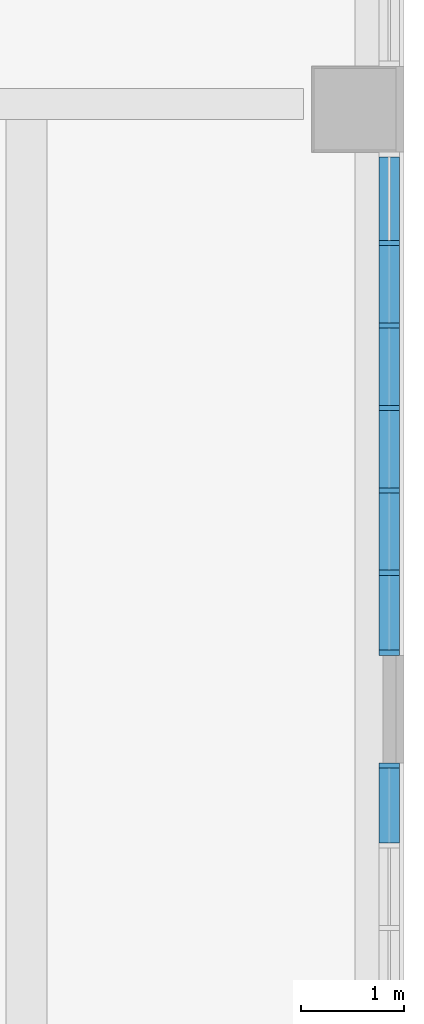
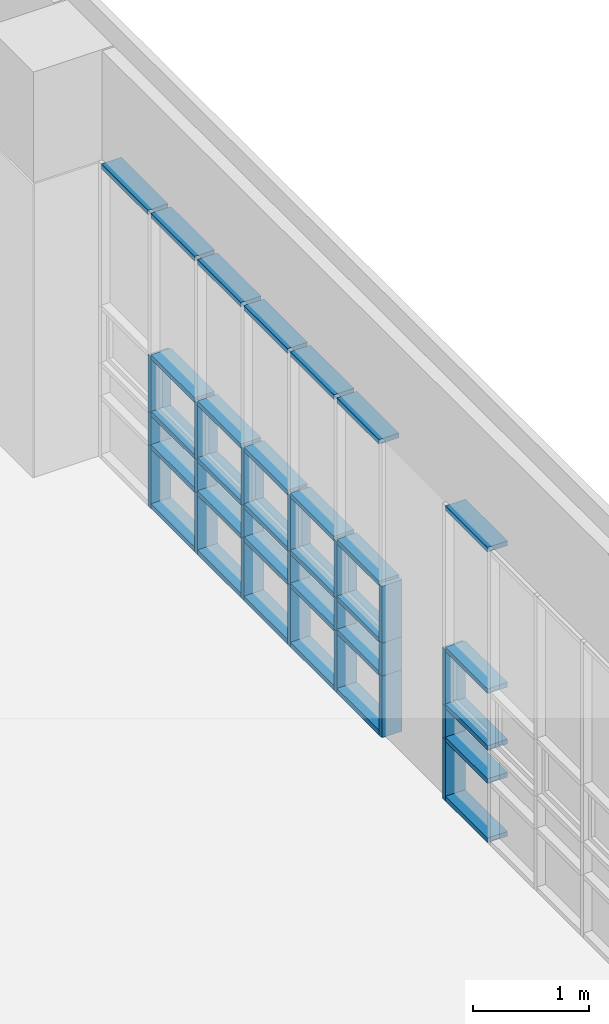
# One storey, part 24 of 74: 52 members, 2 elements without a shape of their own.
"""IFC2X3 building model written with IfcOpenShell, lengths in millimetres."""

from ifc_helpers import new_model, entity, si_unit, converted_unit, derived_unit, direction, frame, origin, origin_2d_with_axis, place, context, subcontext, project, spatial, rectangle, extrude, source, transform, mapped, material, type_object, type_shapes, element, aggregate, save


model = new_model("IFC2X3")

# Units and contexts
model_context = context("Model", 3, precision=0.01, world=origin(), true_north=direction((6.123031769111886e-17, 1.0)))
body_context = subcontext(model_context, "Body", "Model", "MODEL_VIEW")
ifc_project = project(units=[si_unit("LENGTHUNIT", "METRE", prefix="MILLI"), si_unit("AREAUNIT", "SQUARE_METRE"), si_unit("VOLUMEUNIT", "CUBIC_METRE"), converted_unit("PLANEANGLEUNIT", "DEGREE", entity("IfcRatioMeasure", 0.017453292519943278), si_unit("PLANEANGLEUNIT", "RADIAN"), dimensions=[0, 0, 0, 0, 0, 0, 0]), si_unit("MASSUNIT", "GRAM", prefix="KILO"), derived_unit("MASSDENSITYUNIT", [(si_unit("MASSUNIT", "GRAM", prefix="KILO"), 1), (si_unit("LENGTHUNIT", "METRE"), -3)]), derived_unit("MOMENTOFINERTIAUNIT", [(si_unit("LENGTHUNIT", "METRE"), 4)]), si_unit("TIMEUNIT", "SECOND"), si_unit("FREQUENCYUNIT", "HERTZ"), si_unit("THERMODYNAMICTEMPERATUREUNIT", "DEGREE_CELSIUS"), derived_unit("THERMALTRANSMITTANCEUNIT", [(si_unit("MASSUNIT", "GRAM", prefix="KILO"), 1), (si_unit("THERMODYNAMICTEMPERATUREUNIT", "KELVIN"), -1), (si_unit("TIMEUNIT", "SECOND"), -3)]), derived_unit("VOLUMETRICFLOWRATEUNIT", [(si_unit("LENGTHUNIT", "METRE"), 3), (si_unit("TIMEUNIT", "SECOND"), -1)]), derived_unit("MASSFLOWRATEUNIT", [(si_unit("MASSUNIT", "GRAM", prefix="KILO"), 1), (si_unit("TIMEUNIT", "SECOND"), -1)]), derived_unit("ROTATIONALFREQUENCYUNIT", [(si_unit("TIMEUNIT", "SECOND"), -1)]), si_unit("ELECTRICCURRENTUNIT", "AMPERE"), si_unit("ELECTRICVOLTAGEUNIT", "VOLT"), si_unit("POWERUNIT", "WATT"), si_unit("FORCEUNIT", "NEWTON", prefix="KILO"), si_unit("ILLUMINANCEUNIT", "LUX"), si_unit("LUMINOUSFLUXUNIT", "LUMEN"), si_unit("LUMINOUSINTENSITYUNIT", "CANDELA"), derived_unit("USERDEFINED", [(si_unit("MASSUNIT", "GRAM", prefix="KILO"), -1), (si_unit("LENGTHUNIT", "METRE"), -2), (si_unit("TIMEUNIT", "SECOND"), 3), (si_unit("LUMINOUSFLUXUNIT", "LUMEN"), 1)]), derived_unit("SOUNDPOWERUNIT", [(si_unit("MASSUNIT", "GRAM", prefix="KILO"), 1), (si_unit("LENGTHUNIT", "METRE"), 2), (si_unit("TIMEUNIT", "SECOND"), -3)]), derived_unit("SOUNDPRESSUREUNIT", [(si_unit("MASSUNIT", "GRAM", prefix="KILO"), 1), (si_unit("LENGTHUNIT", "METRE"), -1), (si_unit("TIMEUNIT", "SECOND"), -2)]), derived_unit("LINEARVELOCITYUNIT", [(si_unit("LENGTHUNIT", "METRE"), 1), (si_unit("TIMEUNIT", "SECOND"), -1)]), si_unit("PRESSUREUNIT", "PASCAL"), derived_unit("USERDEFINED", [(si_unit("LENGTHUNIT", "METRE"), -2), (si_unit("MASSUNIT", "GRAM", prefix="KILO"), 1), (si_unit("TIMEUNIT", "SECOND"), -2)]), derived_unit("LINEARFORCEUNIT", [(si_unit("MASSUNIT", "GRAM", prefix="KILO"), 1), (si_unit("LENGTHUNIT", "METRE"), 1), (si_unit("TIMEUNIT", "SECOND"), -2), (si_unit("LENGTHUNIT", "METRE"), -1)]), derived_unit("PLANARFORCEUNIT", [(si_unit("MASSUNIT", "GRAM", prefix="KILO"), 1), (si_unit("LENGTHUNIT", "METRE"), 1), (si_unit("TIMEUNIT", "SECOND"), -2), (si_unit("LENGTHUNIT", "METRE"), -2)])], contexts=[model_context])

# Site, building, storey
site_placement = place(None, frame((-14167.972527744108, -657.2125860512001, 0.0)))
site = spatial("IfcSite", under=ifc_project, at=site_placement, Name="Default", CompositionType="ELEMENT")
building_placement = place(site_placement, origin())
building = spatial("IfcBuilding", under=site, at=building_placement, Name="Sample Building", CompositionType="ELEMENT")
storey_placement = place(building_placement, frame((0.0, 0.0, 4800.0)))
storey = spatial("IfcBuildingStorey", under=building, at=storey_placement, Name="지상 2층", CompositionType="ELEMENT", Elevation=4800.000000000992)

# Curtain wall, member
curtain_wall_type = type_object("IfcCurtainWallType", Name="커튼월:CW112-스테인리스 스틸 커튼월", PredefinedType="NOTDEFINED")
curtain_wall_1_placement = place(storey_placement, frame((0.0, 0.0, -4800.0)))
curtain_wall_1 = element("IfcCurtainWall", 1, at=curtain_wall_1_placement, inside=storey, type_object=curtain_wall_type, Name="커튼월:CW112-스테인리스 스틸 커튼월", ObjectType="커튼월:CW112-스테인리스 스틸 커튼월")
ifc_material = material(Name="<Unnamed>")
member_type_1 = type_object("IfcMemberType", Name="직사각형 멀리언:CW200-직사각형 멀리언 50x200mm", PredefinedType="MULLION", material=ifc_material)
shared_shape_1 = source(origin(), body_context, "Body", "SweptSolid", [
    extrude(rectangle(XDim=200.0, YDim=50.0, at=origin_2d_with_axis()), frame((-25.0, 0.0, -650.0), z_axis=(0.0, 0.0, 1.0), x_axis=(0.0, -1.0, 0.0)), (0.0, 0.0, 1.0), 650.0000000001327),
])
type_shapes(member_type_1, [shared_shape_1])
member_1_placement = place(curtain_wall_1_placement, frame((51405.463828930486, 6282.212586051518, 4880.0), z_axis=(0.0, 0.0, -1.0), x_axis=(0.0, 1.0, 0.0)))
member_1 = element("IfcMember", 2, at=member_1_placement, type_object=member_type_1, material=ifc_material, Name="직사각형 멀리언:CW200-직사각형 멀리언 50x200mm", ObjectType="직사각형 멀리언:CW200-직사각형 멀리언 50x200mm", context=body_context, shape_type="MappedRepresentation", body=[
    mapped(shared_shape_1, transform((0.0, 0.0, 0.0), scale=1.0)),
])

# Curtain wall, members
curtain_wall_2_placement = place(storey_placement, frame((0.0, 0.0, -4800.0)))
curtain_wall_2 = element("IfcCurtainWall", 3, at=curtain_wall_2_placement, inside=storey, type_object=curtain_wall_type, Name="커튼월:CW112-스테인리스 스틸 커튼월", ObjectType="커튼월:CW112-스테인리스 스틸 커튼월")
member_type_2 = type_object("IfcMemberType", Name="직사각형 멀리언:CW200-직사각형 멀리언 50x200mm", PredefinedType="MULLION", material=ifc_material)
shared_shape_2 = source(origin(), body_context, "Body", "SweptSolid", [
    extrude(rectangle(XDim=200.0, YDim=50.0, at=origin_2d_with_axis()), frame((0.0, 0.0, -650.0), z_axis=(0.0, 0.0, 1.0), x_axis=(0.0, -1.0, 0.0)), (0.0, 0.0, 1.0), 650.0000000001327),
])
type_shapes(member_type_2, [shared_shape_2])
member_2_placement = place(curtain_wall_2_placement, frame((51405.46382893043, 8136.37925271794, 4880.0), z_axis=(0.0, 0.0, -1.0), x_axis=(0.0, 1.0, 0.0)))
member_2 = element("IfcMember", 4, at=member_2_placement, type_object=member_type_2, material=ifc_material, Name="직사각형 멀리언:CW200-직사각형 멀리언 50x200mm", ObjectType="직사각형 멀리언:CW200-직사각형 멀리언 50x200mm", context=body_context, shape_type="MappedRepresentation", body=[
    mapped(shared_shape_2, transform((0.0, 0.0, 0.0), scale=1.0)),
])
member_3_placement = place(curtain_wall_2_placement, frame((51405.46382893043, 8940.545919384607, 4880.0), z_axis=(0.0, 0.0, -1.0), x_axis=(0.0, 1.0, 0.0)))
member_3 = element("IfcMember", 5, at=member_3_placement, type_object=member_type_2, material=ifc_material, Name="직사각형 멀리언:CW200-직사각형 멀리언 50x200mm", ObjectType="직사각형 멀리언:CW200-직사각형 멀리언 50x200mm", context=body_context, shape_type="MappedRepresentation", body=[
    mapped(shared_shape_2, transform((0.0, 0.0, 0.0), scale=1.0)),
])
member_4_placement = place(curtain_wall_2_placement, frame((51405.463828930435, 9744.712586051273, 4880.0), z_axis=(0.0, 0.0, -1.0), x_axis=(0.0, 1.0, 0.0)))
member_4 = element("IfcMember", 6, at=member_4_placement, type_object=member_type_2, material=ifc_material, Name="직사각형 멀리언:CW200-직사각형 멀리언 50x200mm", ObjectType="직사각형 멀리언:CW200-직사각형 멀리언 50x200mm", context=body_context, shape_type="MappedRepresentation", body=[
    mapped(shared_shape_2, transform((0.0, 0.0, 0.0), scale=1.0)),
])
member_5_placement = place(curtain_wall_2_placement, frame((51405.463828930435, 10548.87925271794, 4880.0), z_axis=(0.0, 0.0, -1.0), x_axis=(0.0, 1.0, 0.0)))
member_5 = element("IfcMember", 7, at=member_5_placement, type_object=member_type_2, material=ifc_material, Name="직사각형 멀리언:CW200-직사각형 멀리언 50x200mm", ObjectType="직사각형 멀리언:CW200-직사각형 멀리언 50x200mm", context=body_context, shape_type="MappedRepresentation", body=[
    mapped(shared_shape_2, transform((0.0, 0.0, 0.0), scale=1.0)),
])
member_6_placement = place(curtain_wall_2_placement, frame((51405.463828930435, 11353.045919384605, 4880.0), z_axis=(0.0, 0.0, -1.0), x_axis=(0.0, 1.0, 0.0)))
member_6 = element("IfcMember", 8, at=member_6_placement, type_object=member_type_2, material=ifc_material, Name="직사각형 멀리언:CW200-직사각형 멀리언 50x200mm", ObjectType="직사각형 멀리언:CW200-직사각형 멀리언 50x200mm", context=body_context, shape_type="MappedRepresentation", body=[
    mapped(shared_shape_2, transform((0.0, 0.0, 0.0), scale=1.0)),
])
member_type_3 = type_object("IfcMemberType", Name="직사각형 멀리언:CW200-직사각형 멀리언 50x200mm", PredefinedType="MULLION", material=ifc_material)
shared_shape_3 = source(origin(), body_context, "Body", "SweptSolid", [
    extrude(rectangle(XDim=200.0, YDim=50.0, at=origin_2d_with_axis()), frame((-25.0, 0.0, -600.0), z_axis=(0.0, 0.0, 1.0), x_axis=(0.0, -1.0, 0.0)), (0.0, 0.0, 1.0), 600.0),
])
type_shapes(member_type_3, [shared_shape_3])
member_7_placement = place(curtain_wall_2_placement, frame((51405.46382893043, 7332.212586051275, 6480.0), z_axis=(0.0, 0.0, 1.0), x_axis=(0.0, -1.0, 0.0)))
member_7 = element("IfcMember", 9, at=member_7_placement, type_object=member_type_3, material=ifc_material, Name="직사각형 멀리언:CW200-직사각형 멀리언 50x200mm", ObjectType="직사각형 멀리언:CW200-직사각형 멀리언 50x200mm", context=body_context, shape_type="MappedRepresentation", body=[
    mapped(shared_shape_3, transform((0.0, 0.0, 0.0), scale=1.0)),
])

# Member
member_type_4 = type_object("IfcMemberType", Name="직사각형 멀리언:CW200-직사각형 멀리언 50x200mm", PredefinedType="MULLION", material=ifc_material)
shared_shape_4 = source(origin(), body_context, "Body", "SweptSolid", [
    extrude(rectangle(XDim=200.0, YDim=50.0, at=origin_2d_with_axis()), frame((-25.0, 0.0, -600.0), z_axis=(0.0, 0.0, 1.0), x_axis=(0.0, -1.0, 0.0)), (0.0, 0.0, 1.0), 600.0),
])
type_shapes(member_type_4, [shared_shape_4])
member_8_placement = place(curtain_wall_1_placement, frame((51405.463828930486, 6282.212586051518, 5880.0), z_axis=(0.0, 0.0, -1.0), x_axis=(0.0, 1.0, 0.0)))
member_8 = element("IfcMember", 10, at=member_8_placement, type_object=member_type_4, material=ifc_material, Name="직사각형 멀리언:CW200-직사각형 멀리언 50x200mm", ObjectType="직사각형 멀리언:CW200-직사각형 멀리언 50x200mm", context=body_context, shape_type="MappedRepresentation", body=[
    mapped(shared_shape_4, transform((0.0, 0.0, 0.0), scale=1.0)),
])

member_type_5 = type_object("IfcMemberType", Name="직사각형 멀리언:CW200-직사각형 멀리언 50x200mm", PredefinedType="MULLION", material=ifc_material)
shared_shape_5 = source(origin(), body_context, "Body", "SweptSolid", [
    extrude(rectangle(XDim=200.0, YDim=50.0, at=origin_2d_with_axis()), frame((-25.0, 0.0, -350.0), z_axis=(0.0, 0.0, 1.0), x_axis=(0.0, -1.0, 0.0)), (0.0, 0.0, 1.0), 349.9999999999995),
])
type_shapes(member_type_5, [shared_shape_5])
member_9_placement = place(curtain_wall_2_placement, frame((51405.46382893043, 7332.212586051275, 5880.0), z_axis=(0.0, 0.0, 1.0), x_axis=(0.0, -1.0, 0.0)))
member_9 = element("IfcMember", 11, at=member_9_placement, type_object=member_type_5, material=ifc_material, Name="직사각형 멀리언:CW200-직사각형 멀리언 50x200mm", ObjectType="직사각형 멀리언:CW200-직사각형 멀리언 50x200mm", context=body_context, shape_type="MappedRepresentation", body=[
    mapped(shared_shape_5, transform((0.0, 0.0, 0.0), scale=1.0)),
])

member_type_6 = type_object("IfcMemberType", Name="직사각형 멀리언:CW200-직사각형 멀리언 50x200mm", PredefinedType="MULLION", material=ifc_material)
shared_shape_6 = source(origin(), body_context, "Body", "SweptSolid", [
    extrude(rectangle(XDim=200.0, YDim=50.0, at=origin_2d_with_axis()), frame((0.0, 0.0, -600.0), z_axis=(0.0, 0.0, 1.0), x_axis=(0.0, -1.0, 0.0)), (0.0, 0.0, 1.0), 600.0),
])
type_shapes(member_type_6, [shared_shape_6])
member_10_placement = place(curtain_wall_2_placement, frame((51405.46382893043, 8136.37925271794, 5880.0), z_axis=(0.0, 0.0, -1.0), x_axis=(0.0, 1.0, 0.0)))
member_10 = element("IfcMember", 12, at=member_10_placement, type_object=member_type_6, material=ifc_material, Name="직사각형 멀리언:CW200-직사각형 멀리언 50x200mm", ObjectType="직사각형 멀리언:CW200-직사각형 멀리언 50x200mm", context=body_context, shape_type="MappedRepresentation", body=[
    mapped(shared_shape_6, transform((0.0, 0.0, 0.0), scale=1.0)),
])

member_11_placement = place(curtain_wall_2_placement, frame((51405.46382893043, 8940.545919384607, 5880.0), z_axis=(0.0, 0.0, -1.0), x_axis=(0.0, 1.0, 0.0)))
member_11 = element("IfcMember", 13, at=member_11_placement, type_object=member_type_6, material=ifc_material, Name="직사각형 멀리언:CW200-직사각형 멀리언 50x200mm", ObjectType="직사각형 멀리언:CW200-직사각형 멀리언 50x200mm", context=body_context, shape_type="MappedRepresentation", body=[
    mapped(shared_shape_6, transform((0.0, 0.0, 0.0), scale=1.0)),
])

member_12_placement = place(curtain_wall_2_placement, frame((51405.463828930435, 9744.712586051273, 5880.0), z_axis=(0.0, 0.0, -1.0), x_axis=(0.0, 1.0, 0.0)))
member_12 = element("IfcMember", 14, at=member_12_placement, type_object=member_type_6, material=ifc_material, Name="직사각형 멀리언:CW200-직사각형 멀리언 50x200mm", ObjectType="직사각형 멀리언:CW200-직사각형 멀리언 50x200mm", context=body_context, shape_type="MappedRepresentation", body=[
    mapped(shared_shape_6, transform((0.0, 0.0, 0.0), scale=1.0)),
])

member_13_placement = place(curtain_wall_2_placement, frame((51405.463828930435, 10548.87925271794, 5880.0), z_axis=(0.0, 0.0, -1.0), x_axis=(0.0, 1.0, 0.0)))
member_13 = element("IfcMember", 15, at=member_13_placement, type_object=member_type_6, material=ifc_material, Name="직사각형 멀리언:CW200-직사각형 멀리언 50x200mm", ObjectType="직사각형 멀리언:CW200-직사각형 멀리언 50x200mm", context=body_context, shape_type="MappedRepresentation", body=[
    mapped(shared_shape_6, transform((0.0, 0.0, 0.0), scale=1.0)),
])

member_14_placement = place(curtain_wall_2_placement, frame((51405.463828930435, 11353.045919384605, 5880.0), z_axis=(0.0, 0.0, -1.0), x_axis=(0.0, 1.0, 0.0)))
member_14 = element("IfcMember", 16, at=member_14_placement, type_object=member_type_6, material=ifc_material, Name="직사각형 멀리언:CW200-직사각형 멀리언 50x200mm", ObjectType="직사각형 멀리언:CW200-직사각형 멀리언 50x200mm", context=body_context, shape_type="MappedRepresentation", body=[
    mapped(shared_shape_6, transform((0.0, 0.0, 0.0), scale=1.0)),
])

member_type_7 = type_object("IfcMemberType", Name="직사각형 멀리언:CW200-직사각형 멀리언 50x200mm", PredefinedType="MULLION", material=ifc_material)
shared_shape_7 = source(origin(), body_context, "Body", "SweptSolid", [
    extrude(rectangle(XDim=200.0, YDim=50.0, at=origin_2d_with_axis()), frame((-25.0, 0.0, -350.0), z_axis=(0.0, 0.0, 1.0), x_axis=(0.0, -1.0, 0.0)), (0.0, 0.0, 1.0), 349.9999999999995),
])
type_shapes(member_type_7, [shared_shape_7])
member_15_placement = place(curtain_wall_1_placement, frame((51405.463828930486, 6282.212586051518, 5530.0), z_axis=(0.0, 0.0, -1.0), x_axis=(0.0, 1.0, 0.0)))
member_15 = element("IfcMember", 17, at=member_15_placement, type_object=member_type_7, material=ifc_material, Name="직사각형 멀리언:CW200-직사각형 멀리언 50x200mm", ObjectType="직사각형 멀리언:CW200-직사각형 멀리언 50x200mm", context=body_context, shape_type="MappedRepresentation", body=[
    mapped(shared_shape_7, transform((0.0, 0.0, 0.0), scale=1.0)),
])

member_type_8 = type_object("IfcMemberType", Name="직사각형 멀리언:CW200-직사각형 멀리언 50x200mm", PredefinedType="MULLION", material=ifc_material)
shared_shape_8 = source(origin(), body_context, "Body", "SweptSolid", [
    extrude(rectangle(XDim=200.0, YDim=50.0, at=origin_2d_with_axis()), frame((-25.0, 0.0, -650.0), z_axis=(0.0, 0.0, 1.0), x_axis=(0.0, -1.0, 0.0)), (0.0, 0.0, 1.0), 650.0000000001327),
])
type_shapes(member_type_8, [shared_shape_8])
member_16_placement = place(curtain_wall_2_placement, frame((51405.46382893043, 7332.212586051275, 5530.0), z_axis=(0.0, 0.0, 1.0), x_axis=(0.0, -1.0, 0.0)))
member_16 = element("IfcMember", 18, at=member_16_placement, type_object=member_type_8, material=ifc_material, Name="직사각형 멀리언:CW200-직사각형 멀리언 50x200mm", ObjectType="직사각형 멀리언:CW200-직사각형 멀리언 50x200mm", context=body_context, shape_type="MappedRepresentation", body=[
    mapped(shared_shape_8, transform((0.0, 0.0, 0.0), scale=1.0)),
])

member_type_9 = type_object("IfcMemberType", Name="직사각형 멀리언:CW200-직사각형 멀리언 50x200mm", PredefinedType="MULLION", material=ifc_material)
shared_shape_9 = source(origin(), body_context, "Body", "SweptSolid", [
    extrude(rectangle(XDim=200.0, YDim=50.0, at=origin_2d_with_axis()), frame((0.0, 0.0, -350.0), z_axis=(0.0, 0.0, 1.0), x_axis=(0.0, -1.0, 0.0)), (0.0, 0.0, 1.0), 349.9999999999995),
])
type_shapes(member_type_9, [shared_shape_9])
member_17_placement = place(curtain_wall_2_placement, frame((51405.46382893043, 8136.37925271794, 5530.0), z_axis=(0.0, 0.0, -1.0), x_axis=(0.0, 1.0, 0.0)))
member_17 = element("IfcMember", 19, at=member_17_placement, type_object=member_type_9, material=ifc_material, Name="직사각형 멀리언:CW200-직사각형 멀리언 50x200mm", ObjectType="직사각형 멀리언:CW200-직사각형 멀리언 50x200mm", context=body_context, shape_type="MappedRepresentation", body=[
    mapped(shared_shape_9, transform((0.0, 0.0, 0.0), scale=1.0)),
])

member_18_placement = place(curtain_wall_2_placement, frame((51405.46382893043, 8940.545919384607, 5530.0), z_axis=(0.0, 0.0, -1.0), x_axis=(0.0, 1.0, 0.0)))
member_18 = element("IfcMember", 20, at=member_18_placement, type_object=member_type_9, material=ifc_material, Name="직사각형 멀리언:CW200-직사각형 멀리언 50x200mm", ObjectType="직사각형 멀리언:CW200-직사각형 멀리언 50x200mm", context=body_context, shape_type="MappedRepresentation", body=[
    mapped(shared_shape_9, transform((0.0, 0.0, 0.0), scale=1.0)),
])

member_19_placement = place(curtain_wall_2_placement, frame((51405.463828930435, 9744.712586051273, 5530.0), z_axis=(0.0, 0.0, -1.0), x_axis=(0.0, 1.0, 0.0)))
member_19 = element("IfcMember", 21, at=member_19_placement, type_object=member_type_9, material=ifc_material, Name="직사각형 멀리언:CW200-직사각형 멀리언 50x200mm", ObjectType="직사각형 멀리언:CW200-직사각형 멀리언 50x200mm", context=body_context, shape_type="MappedRepresentation", body=[
    mapped(shared_shape_9, transform((0.0, 0.0, 0.0), scale=1.0)),
])

member_20_placement = place(curtain_wall_2_placement, frame((51405.463828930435, 10548.87925271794, 5530.0), z_axis=(0.0, 0.0, -1.0), x_axis=(0.0, 1.0, 0.0)))
member_20 = element("IfcMember", 22, at=member_20_placement, type_object=member_type_9, material=ifc_material, Name="직사각형 멀리언:CW200-직사각형 멀리언 50x200mm", ObjectType="직사각형 멀리언:CW200-직사각형 멀리언 50x200mm", context=body_context, shape_type="MappedRepresentation", body=[
    mapped(shared_shape_9, transform((0.0, 0.0, 0.0), scale=1.0)),
])

member_21_placement = place(curtain_wall_2_placement, frame((51405.463828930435, 11353.045919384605, 5530.0), z_axis=(0.0, 0.0, -1.0), x_axis=(0.0, 1.0, 0.0)))
member_21 = element("IfcMember", 23, at=member_21_placement, type_object=member_type_9, material=ifc_material, Name="직사각형 멀리언:CW200-직사각형 멀리언 50x200mm", ObjectType="직사각형 멀리언:CW200-직사각형 멀리언 50x200mm", context=body_context, shape_type="MappedRepresentation", body=[
    mapped(shared_shape_9, transform((0.0, 0.0, 0.0), scale=1.0)),
])

member_type_10 = type_object("IfcMemberType", Name="직사각형 멀리언:CW200-직사각형 멀리언 50x200mm", PredefinedType="MULLION", material=ifc_material)
shared_shape_10 = source(origin(), body_context, "Body", "SweptSolid", [
    extrude(rectangle(XDim=200.0, YDim=50.0, at=origin_2d_with_axis()), frame((-25.0, 0.0, -729.1666666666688), z_axis=(0.0, 0.0, 1.0), x_axis=(0.0, -1.0, 0.0)), (0.0, 0.0, 1.0), 729.1666666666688),
])
type_shapes(member_type_10, [shared_shape_10])
member_22_placement = place(curtain_wall_1_placement, frame((51405.463828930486, 6232.212586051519, 8000.0), z_axis=(0.0, 1.0, 0.0), x_axis=(0.0, 0.0, 1.0)))
member_22 = element("IfcMember", 24, at=member_22_placement, type_object=member_type_10, material=ifc_material, Name="직사각형 멀리언:CW200-직사각형 멀리언 50x200mm", ObjectType="직사각형 멀리언:CW200-직사각형 멀리언 50x200mm", context=body_context, shape_type="MappedRepresentation", body=[
    mapped(shared_shape_10, transform((0.0, 0.0, 0.0), scale=1.0)),
])

member_23_placement = place(curtain_wall_2_placement, frame((51405.46382893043, 8111.379252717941, 8000.0), z_axis=(0.0, 1.0, 0.0), x_axis=(0.0, 0.0, 1.0)))
member_23 = element("IfcMember", 25, at=member_23_placement, type_object=member_type_10, material=ifc_material, Name="직사각형 멀리언:CW200-직사각형 멀리언 50x200mm", ObjectType="직사각형 멀리언:CW200-직사각형 멀리언 50x200mm", context=body_context, shape_type="MappedRepresentation", body=[
    mapped(shared_shape_10, transform((0.0, 0.0, 0.0), scale=1.0)),
])

member_type_11 = type_object("IfcMemberType", Name="직사각형 멀리언:CW200-직사각형 멀리언 50x200mm", PredefinedType="MULLION", material=ifc_material)
shared_shape_11 = source(origin(), body_context, "Body", "SweptSolid", [
    extrude(rectangle(XDim=200.0, YDim=50.0, at=origin_2d_with_axis()), frame((-25.0, 0.0, -811.1669447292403), z_axis=(0.0, 0.0, 1.0), x_axis=(0.0, -1.0, 0.0)), (0.0, 0.0, 1.0), 811.1669447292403),
])
type_shapes(member_type_11, [shared_shape_11])
member_24_placement = place(curtain_wall_2_placement, frame((51405.463828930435, 12189.212729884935, 8000.0), z_axis=(0.0, 1.0, 0.0), x_axis=(0.0, 0.0, 1.0)))
member_24 = element("IfcMember", 26, at=member_24_placement, type_object=member_type_11, material=ifc_material, Name="직사각형 멀리언:CW200-직사각형 멀리언 50x200mm", ObjectType="직사각형 멀리언:CW200-직사각형 멀리언 50x200mm", context=body_context, shape_type="MappedRepresentation", body=[
    mapped(shared_shape_11, transform((0.0, 0.0, 0.0), scale=1.0)),
])

member_type_12 = type_object("IfcMemberType", Name="직사각형 멀리언:CW200-직사각형 멀리언 50x200mm", PredefinedType="MULLION", material=ifc_material)
shared_shape_12 = source(origin(), body_context, "Body", "SweptSolid", [
    extrude(rectangle(XDim=200.0, YDim=50.0, at=origin_2d_with_axis()), frame((-25.0, 0.0, -754.1666666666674), z_axis=(0.0, 0.0, 1.0), x_axis=(0.0, -1.0, 0.0)), (0.0, 0.0, 1.0), 754.1666666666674),
])
type_shapes(member_type_12, [shared_shape_12])
member_25_placement = place(curtain_wall_2_placement, frame((51405.46382893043, 8161.37925271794, 4880.0), z_axis=(0.0, -1.0, 0.0), x_axis=(0.0, 0.0, -1.0)))
member_25 = element("IfcMember", 27, at=member_25_placement, type_object=member_type_12, material=ifc_material, Name="직사각형 멀리언:CW200-직사각형 멀리언 50x200mm", ObjectType="직사각형 멀리언:CW200-직사각형 멀리언 50x200mm", context=body_context, shape_type="MappedRepresentation", body=[
    mapped(shared_shape_12, transform((0.0, 0.0, 0.0), scale=1.0)),
])

member_26_placement = place(curtain_wall_2_placement, frame((51405.46382893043, 8965.545919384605, 4880.0), z_axis=(0.0, -1.0, 0.0), x_axis=(0.0, 0.0, -1.0)))
member_26 = element("IfcMember", 28, at=member_26_placement, type_object=member_type_12, material=ifc_material, Name="직사각형 멀리언:CW200-직사각형 멀리언 50x200mm", ObjectType="직사각형 멀리언:CW200-직사각형 멀리언 50x200mm", context=body_context, shape_type="MappedRepresentation", body=[
    mapped(shared_shape_12, transform((0.0, 0.0, 0.0), scale=1.0)),
])

member_27_placement = place(curtain_wall_2_placement, frame((51405.463828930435, 9769.712586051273, 4880.0), z_axis=(0.0, -1.0, 0.0), x_axis=(0.0, 0.0, -1.0)))
member_27 = element("IfcMember", 29, at=member_27_placement, type_object=member_type_12, material=ifc_material, Name="직사각형 멀리언:CW200-직사각형 멀리언 50x200mm", ObjectType="직사각형 멀리언:CW200-직사각형 멀리언 50x200mm", context=body_context, shape_type="MappedRepresentation", body=[
    mapped(shared_shape_12, transform((0.0, 0.0, 0.0), scale=1.0)),
])

member_28_placement = place(curtain_wall_2_placement, frame((51405.463828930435, 10573.879252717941, 4880.0), z_axis=(0.0, -1.0, 0.0), x_axis=(0.0, 0.0, -1.0)))
member_28 = element("IfcMember", 30, at=member_28_placement, type_object=member_type_12, material=ifc_material, Name="직사각형 멀리언:CW200-직사각형 멀리언 50x200mm", ObjectType="직사각형 멀리언:CW200-직사각형 멀리언 50x200mm", context=body_context, shape_type="MappedRepresentation", body=[
    mapped(shared_shape_12, transform((0.0, 0.0, 0.0), scale=1.0)),
])

member_type_13 = type_object("IfcMemberType", Name="직사각형 멀리언:CW200-직사각형 멀리언 50x200mm", PredefinedType="MULLION", material=ifc_material)
shared_shape_13 = source(origin(), body_context, "Body", "SweptSolid", [
    extrude(rectangle(XDim=200.0, YDim=50.0, at=origin_2d_with_axis()), frame((0.0, 0.0, -754.1666666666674), z_axis=(0.0, 0.0, 1.0), x_axis=(0.0, -1.0, 0.0)), (0.0, 0.0, 1.0), 754.1666666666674),
])
type_shapes(member_type_13, [shared_shape_13])
member_29_placement = place(curtain_wall_2_placement, frame((51405.46382893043, 8915.545919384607, 6480.0), z_axis=(0.0, 1.0, 0.0), x_axis=(0.0, 0.0, 1.0)))
member_29 = element("IfcMember", 31, at=member_29_placement, type_object=member_type_13, material=ifc_material, Name="직사각형 멀리언:CW200-직사각형 멀리언 50x200mm", ObjectType="직사각형 멀리언:CW200-직사각형 멀리언 50x200mm", context=body_context, shape_type="MappedRepresentation", body=[
    mapped(shared_shape_13, transform((0.0, 0.0, 0.0), scale=1.0)),
])

member_30_placement = place(curtain_wall_2_placement, frame((51405.463828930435, 9719.712586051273, 6480.0), z_axis=(0.0, 1.0, 0.0), x_axis=(0.0, 0.0, 1.0)))
member_30 = element("IfcMember", 32, at=member_30_placement, type_object=member_type_13, material=ifc_material, Name="직사각형 멀리언:CW200-직사각형 멀리언 50x200mm", ObjectType="직사각형 멀리언:CW200-직사각형 멀리언 50x200mm", context=body_context, shape_type="MappedRepresentation", body=[
    mapped(shared_shape_13, transform((0.0, 0.0, 0.0), scale=1.0)),
])

member_31_placement = place(curtain_wall_2_placement, frame((51405.463828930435, 10523.87925271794, 6480.0), z_axis=(0.0, 1.0, 0.0), x_axis=(0.0, 0.0, 1.0)))
member_31 = element("IfcMember", 33, at=member_31_placement, type_object=member_type_13, material=ifc_material, Name="직사각형 멀리언:CW200-직사각형 멀리언 50x200mm", ObjectType="직사각형 멀리언:CW200-직사각형 멀리언 50x200mm", context=body_context, shape_type="MappedRepresentation", body=[
    mapped(shared_shape_13, transform((0.0, 0.0, 0.0), scale=1.0)),
])

member_32_placement = place(curtain_wall_2_placement, frame((51405.463828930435, 11328.045919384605, 6480.0), z_axis=(0.0, 1.0, 0.0), x_axis=(0.0, 0.0, 1.0)))
member_32 = element("IfcMember", 34, at=member_32_placement, type_object=member_type_13, material=ifc_material, Name="직사각형 멀리언:CW200-직사각형 멀리언 50x200mm", ObjectType="직사각형 멀리언:CW200-직사각형 멀리언 50x200mm", context=body_context, shape_type="MappedRepresentation", body=[
    mapped(shared_shape_13, transform((0.0, 0.0, 0.0), scale=1.0)),
])

member_33_placement = place(curtain_wall_2_placement, frame((51405.46382893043, 8915.545919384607, 5530.0), z_axis=(0.0, 1.0, 0.0), x_axis=(0.0, 0.0, 1.0)))
member_33 = element("IfcMember", 35, at=member_33_placement, type_object=member_type_13, material=ifc_material, Name="직사각형 멀리언:CW200-직사각형 멀리언 50x200mm", ObjectType="직사각형 멀리언:CW200-직사각형 멀리언 50x200mm", context=body_context, shape_type="MappedRepresentation", body=[
    mapped(shared_shape_13, transform((0.0, 0.0, 0.0), scale=1.0)),
])

member_34_placement = place(curtain_wall_2_placement, frame((51405.463828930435, 9719.712586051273, 5530.0), z_axis=(0.0, 1.0, 0.0), x_axis=(0.0, 0.0, 1.0)))
member_34 = element("IfcMember", 36, at=member_34_placement, type_object=member_type_13, material=ifc_material, Name="직사각형 멀리언:CW200-직사각형 멀리언 50x200mm", ObjectType="직사각형 멀리언:CW200-직사각형 멀리언 50x200mm", context=body_context, shape_type="MappedRepresentation", body=[
    mapped(shared_shape_13, transform((0.0, 0.0, 0.0), scale=1.0)),
])

member_35_placement = place(curtain_wall_2_placement, frame((51405.463828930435, 10523.87925271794, 5530.0), z_axis=(0.0, 1.0, 0.0), x_axis=(0.0, 0.0, 1.0)))
member_35 = element("IfcMember", 37, at=member_35_placement, type_object=member_type_13, material=ifc_material, Name="직사각형 멀리언:CW200-직사각형 멀리언 50x200mm", ObjectType="직사각형 멀리언:CW200-직사각형 멀리언 50x200mm", context=body_context, shape_type="MappedRepresentation", body=[
    mapped(shared_shape_13, transform((0.0, 0.0, 0.0), scale=1.0)),
])

member_36_placement = place(curtain_wall_2_placement, frame((51405.463828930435, 11328.045919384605, 5530.0), z_axis=(0.0, 1.0, 0.0), x_axis=(0.0, 0.0, 1.0)))
member_36 = element("IfcMember", 38, at=member_36_placement, type_object=member_type_13, material=ifc_material, Name="직사각형 멀리언:CW200-직사각형 멀리언 50x200mm", ObjectType="직사각형 멀리언:CW200-직사각형 멀리언 50x200mm", context=body_context, shape_type="MappedRepresentation", body=[
    mapped(shared_shape_13, transform((0.0, 0.0, 0.0), scale=1.0)),
])

member_37_placement = place(curtain_wall_2_placement, frame((51405.46382893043, 8915.545919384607, 5880.0), z_axis=(0.0, 1.0, 0.0), x_axis=(0.0, 0.0, 1.0)))
member_37 = element("IfcMember", 39, at=member_37_placement, type_object=member_type_13, material=ifc_material, Name="직사각형 멀리언:CW200-직사각형 멀리언 50x200mm", ObjectType="직사각형 멀리언:CW200-직사각형 멀리언 50x200mm", context=body_context, shape_type="MappedRepresentation", body=[
    mapped(shared_shape_13, transform((0.0, 0.0, 0.0), scale=1.0)),
])

member_38_placement = place(curtain_wall_2_placement, frame((51405.463828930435, 9719.712586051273, 5880.0), z_axis=(0.0, 1.0, 0.0), x_axis=(0.0, 0.0, 1.0)))
member_38 = element("IfcMember", 40, at=member_38_placement, type_object=member_type_13, material=ifc_material, Name="직사각형 멀리언:CW200-직사각형 멀리언 50x200mm", ObjectType="직사각형 멀리언:CW200-직사각형 멀리언 50x200mm", context=body_context, shape_type="MappedRepresentation", body=[
    mapped(shared_shape_13, transform((0.0, 0.0, 0.0), scale=1.0)),
])

member_39_placement = place(curtain_wall_2_placement, frame((51405.463828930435, 10523.87925271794, 5880.0), z_axis=(0.0, 1.0, 0.0), x_axis=(0.0, 0.0, 1.0)))
member_39 = element("IfcMember", 41, at=member_39_placement, type_object=member_type_13, material=ifc_material, Name="직사각형 멀리언:CW200-직사각형 멀리언 50x200mm", ObjectType="직사각형 멀리언:CW200-직사각형 멀리언 50x200mm", context=body_context, shape_type="MappedRepresentation", body=[
    mapped(shared_shape_13, transform((0.0, 0.0, 0.0), scale=1.0)),
])

member_40_placement = place(curtain_wall_2_placement, frame((51405.463828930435, 11328.045919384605, 5880.0), z_axis=(0.0, 1.0, 0.0), x_axis=(0.0, 0.0, 1.0)))
member_40 = element("IfcMember", 42, at=member_40_placement, type_object=member_type_13, material=ifc_material, Name="직사각형 멀리언:CW200-직사각형 멀리언 50x200mm", ObjectType="직사각형 멀리언:CW200-직사각형 멀리언 50x200mm", context=body_context, shape_type="MappedRepresentation", body=[
    mapped(shared_shape_13, transform((0.0, 0.0, 0.0), scale=1.0)),
])

member_type_14 = type_object("IfcMemberType", Name="직사각형 멀리언:CW200-직사각형 멀리언 50x200mm", PredefinedType="MULLION", material=ifc_material)
shared_shape_14 = source(origin(), body_context, "Body", "SweptSolid", [
    extrude(rectangle(XDim=200.0, YDim=50.0, at=origin_2d_with_axis()), frame((-25.0, 0.0, -754.1666666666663), z_axis=(0.0, 0.0, 1.0), x_axis=(0.0, -1.0, 0.0)), (0.0, 0.0, 1.0), 754.1666666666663),
])
type_shapes(member_type_14, [shared_shape_14])
member_41_placement = place(curtain_wall_2_placement, frame((51405.46382893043, 8915.545919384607, 8000.0), z_axis=(0.0, 1.0, 0.0), x_axis=(0.0, 0.0, 1.0)))
member_41 = element("IfcMember", 43, at=member_41_placement, type_object=member_type_14, material=ifc_material, Name="직사각형 멀리언:CW200-직사각형 멀리언 50x200mm", ObjectType="직사각형 멀리언:CW200-직사각형 멀리언 50x200mm", context=body_context, shape_type="MappedRepresentation", body=[
    mapped(shared_shape_14, transform((0.0, 0.0, 0.0), scale=1.0)),
])

member_42_placement = place(curtain_wall_2_placement, frame((51405.463828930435, 9719.712586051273, 8000.0), z_axis=(0.0, 1.0, 0.0), x_axis=(0.0, 0.0, 1.0)))
member_42 = element("IfcMember", 44, at=member_42_placement, type_object=member_type_14, material=ifc_material, Name="직사각형 멀리언:CW200-직사각형 멀리언 50x200mm", ObjectType="직사각형 멀리언:CW200-직사각형 멀리언 50x200mm", context=body_context, shape_type="MappedRepresentation", body=[
    mapped(shared_shape_14, transform((0.0, 0.0, 0.0), scale=1.0)),
])

member_43_placement = place(curtain_wall_2_placement, frame((51405.463828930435, 10523.87925271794, 8000.0), z_axis=(0.0, 1.0, 0.0), x_axis=(0.0, 0.0, 1.0)))
member_43 = element("IfcMember", 45, at=member_43_placement, type_object=member_type_14, material=ifc_material, Name="직사각형 멀리언:CW200-직사각형 멀리언 50x200mm", ObjectType="직사각형 멀리언:CW200-직사각형 멀리언 50x200mm", context=body_context, shape_type="MappedRepresentation", body=[
    mapped(shared_shape_14, transform((0.0, 0.0, 0.0), scale=1.0)),
])

member_44_placement = place(curtain_wall_2_placement, frame((51405.463828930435, 11328.045919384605, 8000.0), z_axis=(0.0, 1.0, 0.0), x_axis=(0.0, 0.0, 1.0)))
member_44 = element("IfcMember", 46, at=member_44_placement, type_object=member_type_14, material=ifc_material, Name="직사각형 멀리언:CW200-직사각형 멀리언 50x200mm", ObjectType="직사각형 멀리언:CW200-직사각형 멀리언 50x200mm", context=body_context, shape_type="MappedRepresentation", body=[
    mapped(shared_shape_14, transform((0.0, 0.0, 0.0), scale=1.0)),
])

member_type_15 = type_object("IfcMemberType", Name="직사각형 멀리언:CW200-직사각형 멀리언 50x200mm", PredefinedType="MULLION", material=ifc_material)
shared_shape_15 = source(origin(), body_context, "Body", "SweptSolid", [
    extrude(rectangle(XDim=200.0, YDim=50.0, at=origin_2d_with_axis()), frame((-25.0, 0.0, -729.1666666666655), z_axis=(0.0, 0.0, 1.0), x_axis=(0.0, -1.0, 0.0)), (0.0, 0.0, 1.0), 729.1666666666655),
])
type_shapes(member_type_15, [shared_shape_15])
member_45_placement = place(curtain_wall_1_placement, frame((51405.463828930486, 5503.04591938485, 4880.0), z_axis=(0.0, -1.0, 0.0), x_axis=(0.0, 0.0, -1.0)))
member_45 = element("IfcMember", 47, at=member_45_placement, type_object=member_type_15, material=ifc_material, Name="직사각형 멀리언:CW200-직사각형 멀리언 50x200mm", ObjectType="직사각형 멀리언:CW200-직사각형 멀리언 50x200mm", context=body_context, shape_type="MappedRepresentation", body=[
    mapped(shared_shape_15, transform((0.0, 0.0, 0.0), scale=1.0)),
])

member_46_placement = place(curtain_wall_2_placement, frame((51405.46382893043, 7382.212586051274, 4880.0), z_axis=(0.0, -1.0, 0.0), x_axis=(0.0, 0.0, -1.0)))
member_46 = element("IfcMember", 48, at=member_46_placement, type_object=member_type_15, material=ifc_material, Name="직사각형 멀리언:CW200-직사각형 멀리언 50x200mm", ObjectType="직사각형 멀리언:CW200-직사각형 멀리언 50x200mm", context=body_context, shape_type="MappedRepresentation", body=[
    mapped(shared_shape_15, transform((0.0, 0.0, 0.0), scale=1.0)),
])

member_type_16 = type_object("IfcMemberType", Name="직사각형 멀리언:CW200-직사각형 멀리언 50x200mm", PredefinedType="MULLION", material=ifc_material)
shared_shape_16 = source(origin(), body_context, "Body", "SweptSolid", [
    extrude(rectangle(XDim=200.0, YDim=50.0, at=origin_2d_with_axis()), frame((0.0, 0.0, -729.1666666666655), z_axis=(0.0, 0.0, 1.0), x_axis=(0.0, -1.0, 0.0)), (0.0, 0.0, 1.0), 729.1666666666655),
])
type_shapes(member_type_16, [shared_shape_16])
member_47_placement = place(curtain_wall_1_placement, frame((51405.463828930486, 6232.212586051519, 6480.0), z_axis=(0.0, 1.0, 0.0), x_axis=(0.0, 0.0, 1.0)))
member_47 = element("IfcMember", 49, at=member_47_placement, type_object=member_type_16, material=ifc_material, Name="직사각형 멀리언:CW200-직사각형 멀리언 50x200mm", ObjectType="직사각형 멀리언:CW200-직사각형 멀리언 50x200mm", context=body_context, shape_type="MappedRepresentation", body=[
    mapped(shared_shape_16, transform((0.0, 0.0, 0.0), scale=1.0)),
])

member_48_placement = place(curtain_wall_1_placement, frame((51405.463828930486, 6232.212586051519, 5880.0), z_axis=(0.0, 1.0, 0.0), x_axis=(0.0, 0.0, 1.0)))
member_48 = element("IfcMember", 50, at=member_48_placement, type_object=member_type_16, material=ifc_material, Name="직사각형 멀리언:CW200-직사각형 멀리언 50x200mm", ObjectType="직사각형 멀리언:CW200-직사각형 멀리언 50x200mm", context=body_context, shape_type="MappedRepresentation", body=[
    mapped(shared_shape_16, transform((0.0, 0.0, 0.0), scale=1.0)),
])

member_49_placement = place(curtain_wall_1_placement, frame((51405.463828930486, 6232.212586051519, 5530.0), z_axis=(0.0, 1.0, 0.0), x_axis=(0.0, 0.0, 1.0)))
member_49 = element("IfcMember", 51, at=member_49_placement, type_object=member_type_16, material=ifc_material, Name="직사각형 멀리언:CW200-직사각형 멀리언 50x200mm", ObjectType="직사각형 멀리언:CW200-직사각형 멀리언 50x200mm", context=body_context, shape_type="MappedRepresentation", body=[
    mapped(shared_shape_16, transform((0.0, 0.0, 0.0), scale=1.0)),
])

aggregate(curtain_wall_1, [member_22, member_1, member_45, member_47, member_8, member_48, member_15, member_49])

member_50_placement = place(curtain_wall_2_placement, frame((51405.46382893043, 8111.379252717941, 6480.0), z_axis=(0.0, 1.0, 0.0), x_axis=(0.0, 0.0, 1.0)))
member_50 = element("IfcMember", 52, at=member_50_placement, type_object=member_type_16, material=ifc_material, Name="직사각형 멀리언:CW200-직사각형 멀리언 50x200mm", ObjectType="직사각형 멀리언:CW200-직사각형 멀리언 50x200mm", context=body_context, shape_type="MappedRepresentation", body=[
    mapped(shared_shape_16, transform((0.0, 0.0, 0.0), scale=1.0)),
])

member_51_placement = place(curtain_wall_2_placement, frame((51405.46382893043, 8111.379252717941, 5530.0), z_axis=(0.0, 1.0, 0.0), x_axis=(0.0, 0.0, 1.0)))
member_51 = element("IfcMember", 53, at=member_51_placement, type_object=member_type_16, material=ifc_material, Name="직사각형 멀리언:CW200-직사각형 멀리언 50x200mm", ObjectType="직사각형 멀리언:CW200-직사각형 멀리언 50x200mm", context=body_context, shape_type="MappedRepresentation", body=[
    mapped(shared_shape_16, transform((0.0, 0.0, 0.0), scale=1.0)),
])

member_52_placement = place(curtain_wall_2_placement, frame((51405.46382893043, 8111.379252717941, 5880.0), z_axis=(0.0, 1.0, 0.0), x_axis=(0.0, 0.0, 1.0)))
member_52 = element("IfcMember", 54, at=member_52_placement, type_object=member_type_16, material=ifc_material, Name="직사각형 멀리언:CW200-직사각형 멀리언 50x200mm", ObjectType="직사각형 멀리언:CW200-직사각형 멀리언 50x200mm", context=body_context, shape_type="MappedRepresentation", body=[
    mapped(shared_shape_16, transform((0.0, 0.0, 0.0), scale=1.0)),
])

aggregate(curtain_wall_2, [member_24, member_46, member_7, member_50, member_23, member_25, member_29, member_2, member_41, member_26, member_30, member_3, member_42, member_27, member_31, member_4, member_43, member_28, member_32, member_5, member_44, member_6, member_16, member_51, member_33, member_34, member_35, member_36, member_17, member_18, member_19, member_20, member_21, member_9, member_52, member_37, member_38, member_39, member_40, member_10, member_11, member_12, member_13, member_14])

save(model, "model.ifc")
